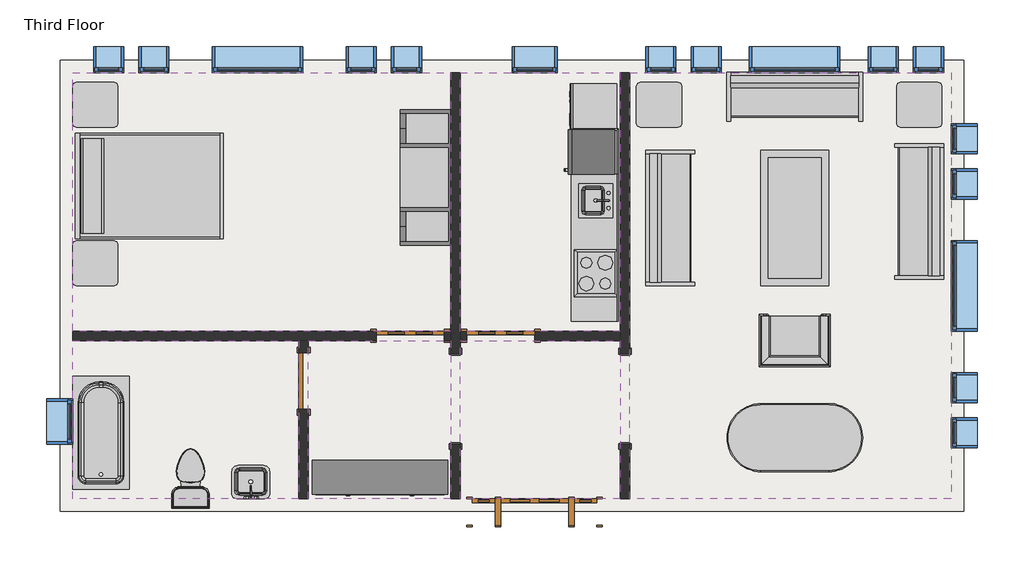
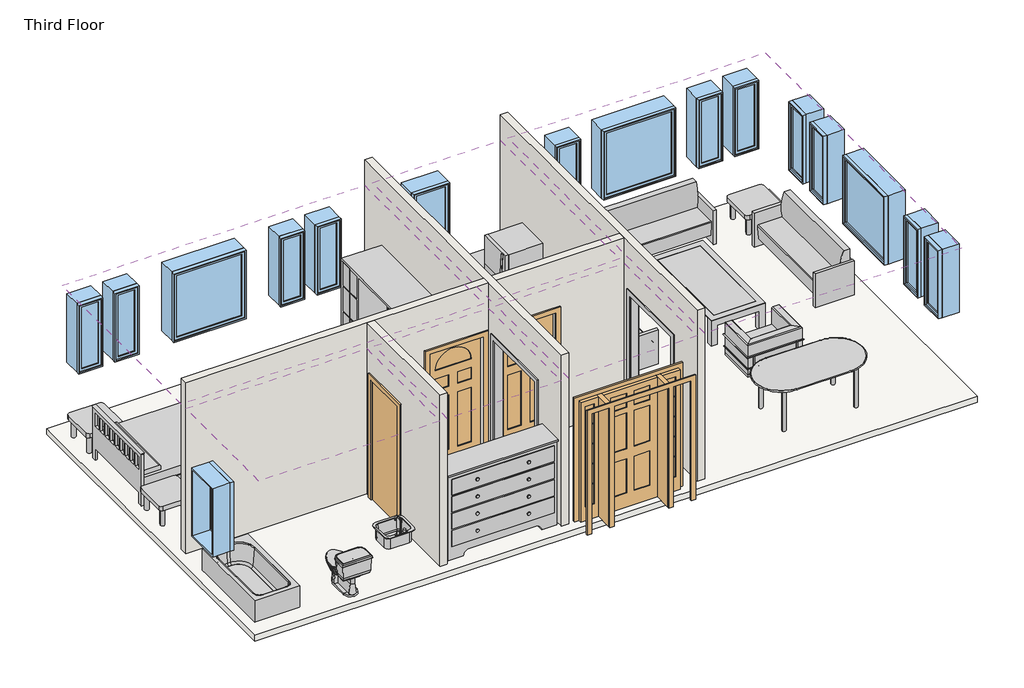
# One storey: 17 windows, 14 furniture elements, 6 coverings, 6 proxies, 5 walls, 4 doors, 4 flow terminals, 1 slab.
"""IFC4 building model written with IfcOpenShell, lengths in millimetres."""

from ifc_helpers import new_model, si_unit, frame, origin, place, context, project, spatial, polyline, outline, extrude, faceted_brep, transform, mapped, element, save
from components import proxy_dfcd9396, proxy_3c49123c, proxy_7a545507, proxy_f44482cc, proxy_ec3341c2, door_829da954, door_2e3b4da2, door_4d6c7550, door_dba5aa2e, flow_terminal_41332a36, flow_terminal_62a433f7, toilet_domestic_3d_toilet_domestic_3d_f7549cf7, toilet_domestic_3d_toilet_domestic_3d_183bbd19, tub_rectangular_3d_tub_rectangular_3d_15036965, furniture_096e7f55, chair_corbu_chair_corbu_2764bdef, furniture_6db689a5, furniture_7c473f12, furniture_cf0b6580, furniture_a4ffab56, furniture_cd93a443, furniture_2c34a4f9, furniture_3a588284, window_da97879f, window_d61ef850, window_60baf983, window_6eb97611

model = new_model("IFC4")

# Units and contexts
model_context = context("Model", 3, world=origin())
ifc_project = project(units=[si_unit("LENGTHUNIT", "METRE", prefix="MILLI")], contexts=[model_context])

# Site, building, storey
site = spatial("IfcSite", under=ifc_project)
building = spatial("IfcBuilding", under=site)
storey = spatial("IfcBuildingStorey", under=building, Name="Third Floor", Elevation=6096.0)

# Proxies
placement = place(None, origin())
proxy_shape = proxy_dfcd9396(model_context)
element("IfcBuildingElementProxy", 1, Name="Cook Top-4 Unit2 : 22\" x 20\"", ObjectType="Cook Top-4 Unit2 : 22\" x 20\"", at=placement, inside=storey, context=model_context, shape_type="MappedRepresentation", body=[
    mapped(proxy_shape, transform((-4167.1589563, 7568.5224391, 6096.0), x_axis=(0.0, 1.0000000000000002, 0.0), y_axis=(-1.0000000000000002, 0.0, 0.0), z_axis=(0.0, 0.0, 1.0))),
])
proxy_2_shape = proxy_3c49123c(model_context)
element("IfcBuildingElementProxy", 2, Name="Dishwasher : 24\" x 24\" x 34\"", ObjectType="Dishwasher : 24\" x 24\" x 34\"", at=placement, inside=storey, context=model_context, shape_type="MappedRepresentation", body=[
    mapped(proxy_2_shape, transform((-4459.0085211, 9434.1049706, 6096.0), x_axis=(0.0, 1.0000000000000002, 0.0), y_axis=(-1.0000000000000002, 0.0, 0.0), z_axis=(0.0, 0.0, 1.0))),
])
proxy_3_shape = proxy_7a545507(model_context)
element("IfcBuildingElementProxy", 3, Name="Kitchenette - Medium : 8'6\"", ObjectType="Kitchenette - Medium : 8'6\"", at=placement, inside=storey, context=model_context, shape_type="MappedRepresentation", body=[
    mapped(proxy_3_shape, transform((-3862.3589563, 8197.4847342, 6096.0), x_axis=(0.0, 1.0000000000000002, 0.0), y_axis=(-1.0000000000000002, 0.0, 0.0), z_axis=(0.0, 0.0, 1.0))),
])
proxy_4_shape = proxy_f44482cc(model_context)
element("IfcBuildingElementProxy", 4, Name="Opening-Cased : 48\" x 84\"", ObjectType="Opening-Cased : 48\" x 84\"", at=placement, inside=storey, context=model_context, shape_type="MappedRepresentation", body=[
    mapped(proxy_4_shape, transform((-3773.4589563, 5882.4203434, 6096.0), x_axis=(0.0, 1.0, 0.0), y_axis=(-1.0, 0.0, 0.0), z_axis=(0.0, 0.0, 1.0))),
])
element("IfcBuildingElementProxy", 5, Name="Opening-Cased : 48\" x 84\"", ObjectType="Opening-Cased : 48\" x 84\"", at=placement, inside=storey, context=model_context, shape_type="MappedRepresentation", body=[
    mapped(proxy_4_shape, transform((-6059.4589563, 5866.04303, 6096.0), x_axis=(0.0, -1.0, 0.0), y_axis=(1.0, 0.0, 0.0), z_axis=(0.0, 0.0, 1.0))),
])
proxy_5_shape = proxy_ec3341c2(model_context)
element("IfcBuildingElementProxy", 6, Name="Refrigerator : 24\" x 25\" LH", ObjectType="Refrigerator : 24\" x 25\" LH", at=placement, inside=storey, context=model_context, shape_type="MappedRepresentation", body=[
    mapped(proxy_5_shape, transform((-4212.8079278, 9200.4724391, 6096.0), x_axis=(0.0, 1.0000000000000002, 0.0), y_axis=(-1.0000000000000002, 0.0, 0.0), z_axis=(0.0, 0.0, 1.0))),
])

# Coverings
element("IfcCovering", 7, ObjectType="GWB on Mtl. Stud", at=placement, inside=storey, context=model_context, shape_type="SweptSolid", body=[
    extrude(outline(polyline([(-11217.2464563, 10270.0191867), (-6122.9589563, 10270.0191867), (-6122.9589563, 6787.0441867), (-11217.2464563, 6787.0441867), (-11217.2464563, 10270.0191867)])), frame((0.0, 0.0, 8686.8), z_axis=(0.0, 0.0, 1.0), x_axis=(1.0, 0.0, 0.0)), (0.0, 0.0, 1.0), 107.95),
])
element("IfcCovering", 8, ObjectType="GWB on Mtl. Stud", at=placement, inside=storey, context=model_context, shape_type="SweptSolid", body=[
    extrude(outline(polyline([(-5995.9589563, 6787.0441867), (-5995.9589563, 10270.0191867), (-3836.9589563, 10270.0191867), (-3836.9589563, 6787.0441867), (-5995.9589563, 6787.0441867)])), frame((0.0, 0.0, 8686.8), z_axis=(0.0, 0.0, 1.0), x_axis=(1.0, 0.0, 0.0)), (0.0, 0.0, 1.0), 107.95),
])
element("IfcCovering", 9, ObjectType="GWB on Mtl. Stud", at=placement, inside=storey, context=model_context, shape_type="SweptSolid", body=[
    extrude(outline(polyline([(-3709.9589563, 4526.4441867), (-3709.9589563, 10270.0191867), (622.3285437, 10270.0191867), (622.3285437, 4526.4441867), (-3709.9589563, 4526.4441867)])), frame((0.0, 0.0, 8686.8), z_axis=(0.0, 0.0, 1.0), x_axis=(1.0, 0.0, 0.0)), (0.0, 0.0, 1.0), 107.95),
])
element("IfcCovering", 10, ObjectType="GWB on Mtl. Stud", at=placement, inside=storey, context=model_context, shape_type="SweptSolid", body=[
    extrude(outline(polyline([(-3836.9589563, 4526.4441867), (-5995.9589563, 4526.4441867), (-5995.9589563, 6660.0441867), (-3836.9589563, 6660.0441867), (-3836.9589563, 4526.4441867)])), frame((0.0, 0.0, 8686.8), z_axis=(0.0, 0.0, 1.0), x_axis=(1.0, 0.0, 0.0)), (0.0, 0.0, 1.0), 107.95),
])
element("IfcCovering", 11, ObjectType="GWB on Mtl. Stud", at=placement, inside=storey, context=model_context, shape_type="SweptSolid", body=[
    extrude(outline(polyline([(-8169.2464563, 6660.0441867), (-8169.2464563, 4526.4441867), (-11217.2464563, 4526.4441867), (-11217.2464563, 6660.0441867), (-8169.2464563, 6660.0441867)])), frame((0.0, 0.0, 8686.8), z_axis=(0.0, 0.0, 1.0), x_axis=(1.0, 0.0, 0.0)), (0.0, 0.0, 1.0), 107.95),
])
element("IfcCovering", 12, ObjectType="GWB on Mtl. Stud", at=placement, inside=storey, context=model_context, shape_type="SweptSolid", body=[
    extrude(outline(polyline([(-6122.9589563, 4526.4441867), (-8042.2464563, 4526.4441867), (-8042.2464563, 6660.0441867), (-6122.9589563, 6660.0441867), (-6122.9589563, 4526.4441867)])), frame((0.0, 0.0, 8686.8), z_axis=(0.0, 0.0, 1.0), x_axis=(1.0, 0.0, 0.0)), (0.0, 0.0, 1.0), 107.95),
])

# Doors
door_shape = door_829da954(model_context)
element("IfcDoor", 13, ObjectType="Single-Decorative 2 : 36\" x 84\"", at=placement, inside=storey, context=model_context, shape_type="MappedRepresentation", body=[
    mapped(door_shape, transform((-5449.8589563, 6723.5441867, 6096.0), x_axis=(-1.0, 0.0, 0.0), y_axis=(0.0, -1.0, 0.0), z_axis=(0.0, 0.0, 1.0))),
])
door_2_shape = door_2e3b4da2(model_context)
element("IfcDoor", 14, ObjectType="Single-Decorative 2 : 36\" x 84\"", at=placement, inside=storey, context=model_context, shape_type="MappedRepresentation", body=[
    mapped(door_2_shape, transform((-6669.0589563, 6723.5441867, 6096.0), x_axis=(1.0, 0.0, 0.0), y_axis=(0.0, 1.0, 0.0), z_axis=(0.0, 0.0, 1.0))),
])
door_3_shape = door_4d6c7550(model_context)
element("IfcDoor", 15, ObjectType="Single-Flush : 30\" x 84\"", at=placement, inside=storey, context=model_context, shape_type="MappedRepresentation", body=[
    mapped(door_3_shape, transform((-8105.7464563, 6113.9441867, 6096.0), x_axis=(0.0, 1.0, 0.0), y_axis=(-1.0, 0.0, 0.0), z_axis=(0.0, 0.0, 1.0))),
])
door_4_shape = door_dba5aa2e(model_context)
element("IfcDoor", 16, ObjectType="Single-Raised Panel with Sidelights : 36\" x 84\"", at=placement, inside=storey, context=model_context, shape_type="MappedRepresentation", body=[
    mapped(door_4_shape, transform((-4992.6589563, 4350.2316867, 6096.0), x_axis=(-1.0, 0.0, 0.0), y_axis=(0.0, -1.0, 0.0), z_axis=(0.0, 0.0, 1.0))),
])

# Flow terminals
flow_terminal_shape = flow_terminal_41332a36(model_context)
element("IfcFlowTerminal", 17, ObjectType="Sink Kitchen-Island : 18\" x 18\"", at=placement, inside=storey, context=model_context, shape_type="MappedRepresentation", body=[
    mapped(flow_terminal_shape, transform((-4169.5043574, 8530.7331986, 6081.6), x_axis=(0.0, 1.0000000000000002, 0.0), y_axis=(-1.0000000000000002, 0.0, 0.0), z_axis=(0.0, 0.0, 1.0))),
])
flow_terminal_2_shape = flow_terminal_62a433f7(model_context)
element("IfcFlowTerminal", 18, ObjectType="Sink Vanity-Square : 20\" x 18\"", at=placement, inside=storey, context=model_context, shape_type="MappedRepresentation", body=[
    mapped(flow_terminal_2_shape, transform((-8801.2572158, 4706.5895878, 6096.0), x_axis=(-1.0, 0.0, 0.0), y_axis=(0.0, -1.0, 0.0), z_axis=(0.0, 0.0, 1.0))),
])
toilet_domestic_3d_toilet_domestic_3d_shape = toilet_domestic_3d_toilet_domestic_3d_f7549cf7(model_context)
toilet_domestic_3d_toilet_domestic_3d_2_shape = toilet_domestic_3d_toilet_domestic_3d_183bbd19(model_context)
element("IfcFlowTerminal", 19, ObjectType="Toilet-Domestic-3D : Toilet-Domestic-3D", at=placement, inside=storey, context=model_context, shape_type="MappedRepresentation", body=[
    mapped(toilet_domestic_3d_toilet_domestic_3d_shape, transform((-9629.7464563, 4894.7441867, 6096.0), x_axis=(-1.0, 0.0, 0.0), y_axis=(0.0, -1.0, 0.0), z_axis=(0.0, 0.0, 1.0))),
    mapped(toilet_domestic_3d_toilet_domestic_3d_2_shape, transform((-9629.7464563, 4894.7441867, 6096.0), x_axis=(-1.0, 0.0, 0.0), y_axis=(0.0, -1.0, 0.0), z_axis=(0.0, 0.0, 1.0))),
])
tub_rectangular_3d_tub_rectangular_3d_shape = tub_rectangular_3d_tub_rectangular_3d_15036965(model_context)
element("IfcFlowTerminal", 20, ObjectType="Tub-Rectangular-3D : Tub-Rectangular-3D", at=placement, inside=storey, context=model_context, shape_type="MappedRepresentation", body=[
    mapped(tub_rectangular_3d_tub_rectangular_3d_shape, transform((-11393.4589563, 5765.6346554, 6096.0), x_axis=(0.0, 1.0, 0.0), y_axis=(-1.0, 0.0, 0.0), z_axis=(0.0, 0.0, 1.0))),
])

# Furniture
furniture_shape = furniture_096e7f55(model_context)
element("IfcFurniture", 21, ObjectType="Bed-Shaker : Double 56\" x 78\"", at=placement, inside=storey, context=model_context, shape_type="MappedRepresentation", body=[
    mapped(furniture_shape, transform((-11172.0857802, 8763.4816867, 6096.0), x_axis=(0.0, 1.0, 0.0), y_axis=(-1.0, 0.0, 0.0), z_axis=(0.0, 0.0, 1.0))),
])
chair_corbu_chair_corbu_shape = chair_corbu_chair_corbu_2764bdef(model_context)
element("IfcFurniture", 22, ObjectType="Chair-Corbu : Chair-Corbu", at=placement, inside=storey, context=model_context, shape_type="MappedRepresentation", body=[
    mapped(chair_corbu_chair_corbu_shape, transform((-914.0851858, 7126.8212359, 6096.0), x_axis=(-1.0, 0.0, 0.0), y_axis=(0.0, -1.0, 0.0), z_axis=(0.0, 0.0, 1.0))),
])
furniture_2_shape = furniture_6db689a5(model_context)
element("IfcFurniture", 23, ObjectType="Counter Top w Sink Hole : 24\" Depth", at=placement, inside=storey, context=model_context, shape_type="MappedRepresentation", body=[
    mapped(furniture_2_shape, transform((-3862.3589563, 8121.2847342, 6081.6), x_axis=(0.0, 1.0000000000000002, 0.0), y_axis=(-1.0000000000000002, 0.0, 0.0), z_axis=(0.0, 0.0, 1.0))),
])
furniture_3_shape = furniture_7c473f12(model_context)
element("IfcFurniture", 24, ObjectType="Dresser : 72\" x 60\" x 18\"", at=placement, inside=storey, context=model_context, shape_type="MappedRepresentation", body=[
    mapped(furniture_3_shape, transform((-6806.2656965, 5181.7071408, 6096.0), x_axis=(1.0, 0.0, 0.0), y_axis=(0.0, 1.0, 0.0), z_axis=(0.0, 0.0, 1.0))),
])
furniture_4_shape = furniture_cf0b6580(model_context)
element("IfcFurniture", 25, ObjectType="Entertainment Center : 72\" x 72\" x 24\"", at=placement, inside=storey, context=model_context, shape_type="MappedRepresentation", body=[
    mapped(furniture_4_shape, transform((-6021.3589563, 8857.1441867, 6096.0), x_axis=(0.0, -1.0, 0.0), y_axis=(1.0, 0.0, 0.0), z_axis=(0.0, 0.0, 1.0))),
])
furniture_5_shape = furniture_a4ffab56(model_context)
element("IfcFurniture", 26, ObjectType="Sofa : 72\"", at=placement, inside=storey, context=model_context, shape_type="MappedRepresentation", body=[
    mapped(furniture_5_shape, transform((-3017.704858, 8242.2611949, 6096.0), x_axis=(0.0, 1.0, 0.0), y_axis=(-1.0, 0.0, 0.0), z_axis=(0.0, 0.0, 1.0))),
])
element("IfcFurniture", 27, ObjectType="Sofa : 72\"", at=placement, inside=storey, context=model_context, shape_type="MappedRepresentation", body=[
    mapped(furniture_5_shape, transform((-1557.8294481, 9801.5748071, 6096.0), x_axis=(1.0, 0.0, 0.0), y_axis=(0.0, 1.0, 0.0), z_axis=(0.0, 0.0, 1.0))),
])
element("IfcFurniture", 28, ObjectType="Sofa : 72\"", at=placement, inside=storey, context=model_context, shape_type="MappedRepresentation", body=[
    mapped(furniture_5_shape, transform((42.7869453, 8470.3146785, 6096.0), x_axis=(0.0, -1.0, 0.0), y_axis=(1.0, 0.0, 0.0), z_axis=(0.0, 0.0, 1.0))),
])
furniture_6_shape = furniture_cd93a443(model_context)
element("IfcFurniture", 29, ObjectType="Table-Coffee : 36\" x 72\" x 18\"", at=placement, inside=storey, context=model_context, shape_type="MappedRepresentation", body=[
    mapped(furniture_6_shape, transform((-1392.2478785, 8294.36592, 6096.0), x_axis=(0.0, 1.0, 0.0), y_axis=(-1.0, 0.0, 0.0), z_axis=(0.0, 0.0, 1.0))),
])
furniture_7_shape = furniture_2c34a4f9(model_context)
element("IfcFurniture", 30, ObjectType="Table-Dining Oval : 36\" x 72\"", at=placement, inside=storey, context=model_context, shape_type="MappedRepresentation", body=[
    mapped(furniture_7_shape, transform((-1085.6392842, 5710.0425473, 6096.0), x_axis=(1.0, 0.0, 0.0), y_axis=(0.0, 1.0, 0.0), z_axis=(0.0, 0.0, 1.0))),
])
furniture_8_shape = furniture_3a588284(model_context)
element("IfcFurniture", 31, ObjectType="Table-End : 24\" x 24\"", at=placement, inside=storey, context=model_context, shape_type="MappedRepresentation", body=[
    mapped(furniture_8_shape, transform((-119.5925866, 9684.2316867, 6096.0), x_axis=(1.0, 0.0, 0.0), y_axis=(0.0, 1.0, 0.0), z_axis=(0.0, 0.0, 1.0))),
])
element("IfcFurniture", 32, ObjectType="Table-End : 24\" x 24\"", at=placement, inside=storey, context=model_context, shape_type="MappedRepresentation", body=[
    mapped(furniture_8_shape, transform((-11220.9800866, 7550.6316867, 6096.0), x_axis=(1.0, 0.0, 0.0), y_axis=(0.0, 1.0, 0.0), z_axis=(0.0, 0.0, 1.0))),
])
element("IfcFurniture", 33, ObjectType="Table-End : 24\" x 24\"", at=placement, inside=storey, context=model_context, shape_type="MappedRepresentation", body=[
    mapped(furniture_8_shape, transform((-11220.9800866, 9684.2316867, 6096.0), x_axis=(1.0, 0.0, 0.0), y_axis=(0.0, 1.0, 0.0), z_axis=(0.0, 0.0, 1.0))),
])
element("IfcFurniture", 34, ObjectType="Table-End : 24\" x 24\"", at=placement, inside=storey, context=model_context, shape_type="MappedRepresentation", body=[
    mapped(furniture_8_shape, transform((-3624.7925866, 9684.2316867, 6096.0), x_axis=(1.0, 0.0, 0.0), y_axis=(0.0, 1.0, 0.0), z_axis=(0.0, 0.0, 1.0))),
])

# Slab
element("IfcSlab", 35, ObjectType="LW Concrete on Metal Deck", at=placement, inside=storey, context=model_context, shape_type="SweptSolid", body=[
    extrude(outline(polyline([(787.4285437, 10435.1191867), (787.4285437, 4361.3441867), (-11382.3464563, 4361.3441867), (-11382.3464563, 10435.1191867), (787.4285437, 10435.1191867)])), frame((0.0, 0.0, 5991.225), z_axis=(0.0, 0.0, 1.0), x_axis=(1.0, 0.0, 0.0)), (0.0, 0.0, 1.0), 104.775),
])

# Walls
element("IfcWall", 36, ObjectType="Interior - 5\" Partition (2-hr)", at=placement, inside=storey, context=model_context, shape_type="Brep", body=[
    faceted_brep([(-3709.9589563, 10270.0191867, 6096.0), (-3709.9589563, 6483.8316867, 6096.0), (-3836.9589563, 6483.8316867, 6096.0), (-3836.9589563, 6660.0441867, 6096.0), (-3836.9589563, 6787.0441867, 6096.0), (-3836.9589563, 10270.0191867, 6096.0), (-3709.9589563, 5264.6316867, 6096.0), (-3709.9589563, 4526.4441867, 6096.0), (-3836.9589563, 4526.4441867, 6096.0), (-3836.9589563, 5264.6316867, 6096.0), (-3836.9589563, 10270.0191867, 9144.0), (-3836.9589563, 6787.0441867, 9144.0), (-3836.9589563, 6660.0441867, 9144.0), (-3836.9589563, 4526.4441867, 9144.0), (-3709.9589563, 4526.4441867, 9144.0), (-3709.9589563, 10270.0191867, 9144.0), (-3836.9589563, 6483.8316867, 8229.6), (-3836.9589563, 5264.6316867, 8229.6), (-3709.9589563, 6483.8316867, 8229.6), (-3709.9589563, 5264.6316867, 8229.6)], [[[0, 1, 2, 3, 4, 5]], [[6, 7, 8, 9]], [[10, 11, 12, 13, 14, 15]], [[5, 4, 3, 2, 16, 17, 9, 8, 13, 12, 11, 10]], [[18, 1, 0, 15, 14, 7, 6, 19]], [[5, 10, 15, 0]], [[13, 8, 7, 14]], [[9, 17, 19, 6]], [[16, 2, 1, 18]], [[17, 16, 18, 19]]]),
])
element("IfcWall", 37, ObjectType="Interior - 5\" Partition (2-hr)", at=placement, inside=storey, context=model_context, shape_type="Brep", body=[
    faceted_brep([(-6122.9589563, 4526.4441867, 6096.0), (-6122.9589563, 5264.6316867, 6096.0), (-5995.9589563, 5264.6316867, 6096.0), (-5995.9589563, 4526.4441867, 6096.0), (-6122.9589563, 6483.8316867, 6096.0), (-6122.9589563, 6660.0441867, 6096.0), (-6122.9589563, 6787.0441867, 6096.0), (-6122.9589563, 10270.0191867, 6096.0), (-5995.9589563, 10270.0191867, 6096.0), (-5995.9589563, 6787.0441867, 6096.0), (-5995.9589563, 6660.0441867, 6096.0), (-5995.9589563, 6483.8316867, 6096.0), (-6122.9589563, 10270.0191867, 9144.0), (-6122.9589563, 6787.0441867, 9144.0), (-6122.9589563, 6660.0441867, 9144.0), (-6122.9589563, 4526.4441867, 9144.0), (-5995.9589563, 4526.4441867, 9144.0), (-5995.9589563, 6660.0441867, 9144.0), (-5995.9589563, 6787.0441867, 9144.0), (-5995.9589563, 10270.0191867, 9144.0), (-6122.9589563, 5264.6316867, 8229.6), (-6122.9589563, 6483.8316867, 8229.6), (-5995.9589563, 5264.6316867, 8229.6), (-5995.9589563, 6483.8316867, 8229.6)], [[[0, 1, 2, 3]], [[4, 5, 6, 7, 8, 9, 10, 11]], [[12, 13, 14, 15, 16, 17, 18, 19]], [[20, 1, 0, 15, 14, 13, 12, 7, 6, 5, 4, 21]], [[3, 2, 22, 23, 11, 10, 9, 8, 19, 18, 17, 16]], [[7, 12, 19, 8]], [[15, 0, 3, 16]], [[11, 23, 21, 4]], [[22, 2, 1, 20]], [[23, 22, 20, 21]]]),
])
element("IfcWall", 38, ObjectType="Interior - 5\" Partition (2-hr)", at=placement, inside=storey, context=model_context, shape_type="Brep", body=[
    faceted_brep([(-6122.9589563, 6660.0441867, 6096.0), (-6211.8589563, 6660.0441867, 6096.0), (-6211.8589563, 6787.0441867, 6096.0), (-6122.9589563, 6787.0441867, 6096.0), (-7126.2589563, 6660.0441867, 6096.0), (-8042.2464563, 6660.0441867, 6096.0), (-8169.2464563, 6660.0441867, 6096.0), (-11217.2464563, 6660.0441867, 6096.0), (-11217.2464563, 6787.0441867, 6096.0), (-7126.2589563, 6787.0441867, 6096.0), (-11217.2464563, 6660.0441867, 9144.0), (-8169.2464563, 6660.0441867, 9144.0), (-8042.2464563, 6660.0441867, 9144.0), (-6122.9589563, 6660.0441867, 9144.0), (-6122.9589563, 6787.0441867, 9144.0), (-11217.2464563, 6787.0441867, 9144.0), (-6211.8589563, 6660.0441867, 8229.6), (-7126.2589563, 6660.0441867, 8229.6), (-6211.8589563, 6787.0441867, 8229.6), (-7126.2589563, 6787.0441867, 8229.6)], [[[0, 1, 2, 3]], [[4, 5, 6, 7, 8, 9]], [[10, 11, 12, 13, 14, 15]], [[16, 1, 0, 13, 12, 11, 10, 7, 6, 5, 4, 17]], [[3, 2, 18, 19, 9, 8, 15, 14]], [[13, 0, 3, 14]], [[7, 10, 15, 8]], [[18, 2, 1, 16]], [[19, 18, 16, 17]], [[9, 19, 17, 4]]]),
])
element("IfcWall", 39, ObjectType="Interior - 5\" Partition (2-hr)", at=placement, inside=storey, context=model_context, shape_type="SweptSolid", body=[
    extrude(outline(polyline([(6660.0441867, 6096.0), (6494.9441867, 6096.0), (6494.9441867, 8229.6), (5732.9441867, 8229.6), (5732.9441867, 6096.0), (4526.4441867, 6096.0), (4526.4441867, 9144.0), (6660.0441867, 9144.0), (6660.0441867, 6096.0)])), frame((-8169.2464563, 0.0, 0.0), z_axis=(1.0, 0.0, 0.0), x_axis=(0.0, 1.0, 0.0)), (0.0, 0.0, 1.0), 127.0),
])
element("IfcWall", 40, ObjectType="Interior - 5\" Partition (2-hr)", at=placement, inside=storey, context=model_context, shape_type="SweptSolid", body=[
    extrude(outline(polyline([(6096.0, -5995.9589563), (6096.0, -5907.0589563), (8229.6, -5907.0589563), (8229.6, -4992.6589563), (6096.0, -4992.6589563), (6096.0, -3836.9589563), (9144.0, -3836.9589563), (9144.0, -5995.9589563), (6096.0, -5995.9589563)])), frame((0.0, 6660.0441867, 0.0), z_axis=(0.0, 1.0, 0.0), x_axis=(0.0, 0.0, 1.0)), (0.0, 0.0, 1.0), 127.0),
])

# Windows
window_shape = window_da97879f(model_context)
element("IfcWindow", 41, ObjectType="Fixed : 16\" x 48\"", at=placement, inside=storey, context=model_context, shape_type="MappedRepresentation", body=[
    mapped(window_shape, transform((-10771.1589563, 10446.2316867, 6096.0), x_axis=(-1.0, 0.0, 0.0), y_axis=(0.0, -1.0, 0.0), z_axis=(0.0, 0.0, 1.0))),
])
element("IfcWindow", 42, ObjectType="Fixed : 16\" x 48\"", at=placement, inside=storey, context=model_context, shape_type="MappedRepresentation", body=[
    mapped(window_shape, transform((-10161.5589563, 10446.2316867, 6096.0), x_axis=(-1.0, 0.0, 0.0), y_axis=(0.0, -1.0, 0.0), z_axis=(0.0, 0.0, 1.0))),
])
element("IfcWindow", 43, ObjectType="Fixed : 16\" x 48\"", at=placement, inside=storey, context=model_context, shape_type="MappedRepresentation", body=[
    mapped(window_shape, transform((-3328.9589563, 10446.2316867, 6096.0), x_axis=(-1.0, 0.0, 0.0), y_axis=(0.0, -1.0, 0.0), z_axis=(0.0, 0.0, 1.0))),
])
element("IfcWindow", 44, ObjectType="Fixed : 16\" x 48\"", at=placement, inside=storey, context=model_context, shape_type="MappedRepresentation", body=[
    mapped(window_shape, transform((-2719.3589563, 10446.2316867, 6096.0), x_axis=(-1.0, 0.0, 0.0), y_axis=(0.0, -1.0, 0.0), z_axis=(0.0, 0.0, 1.0))),
])
element("IfcWindow", 45, ObjectType="Fixed : 16\" x 48\"", at=placement, inside=storey, context=model_context, shape_type="MappedRepresentation", body=[
    mapped(window_shape, transform((798.5410437, 9417.5316867, 6096.0), x_axis=(0.0, 1.0, 0.0), y_axis=(-1.0, 0.0, 0.0), z_axis=(0.0, 0.0, 1.0))),
])
element("IfcWindow", 46, ObjectType="Fixed : 16\" x 48\"", at=placement, inside=storey, context=model_context, shape_type="MappedRepresentation", body=[
    mapped(window_shape, transform((798.5410437, 8807.9316867, 6096.0), x_axis=(0.0, 1.0, 0.0), y_axis=(-1.0, 0.0, 0.0), z_axis=(0.0, 0.0, 1.0))),
])
window_2_shape = window_d61ef850(model_context)
element("IfcWindow", 47, ObjectType="Fixed : 16\" x 48\"", at=placement, inside=storey, context=model_context, shape_type="MappedRepresentation", body=[
    mapped(window_2_shape, transform((-6681.7589563, 10446.2316867, 6096.0), x_axis=(1.0, 0.0, 0.0), y_axis=(0.0, 1.0, 0.0), z_axis=(0.0, 0.0, 1.0))),
])
element("IfcWindow", 48, ObjectType="Fixed : 16\" x 48\"", at=placement, inside=storey, context=model_context, shape_type="MappedRepresentation", body=[
    mapped(window_2_shape, transform((-7291.3589563, 10446.2316867, 6096.0), x_axis=(1.0, 0.0, 0.0), y_axis=(0.0, 1.0, 0.0), z_axis=(0.0, 0.0, 1.0))),
])
element("IfcWindow", 49, ObjectType="Fixed : 16\" x 48\"", at=placement, inside=storey, context=model_context, shape_type="MappedRepresentation", body=[
    mapped(window_2_shape, transform((354.0410437, 10446.2316867, 6096.0), x_axis=(1.0, 0.0, 0.0), y_axis=(0.0, 1.0, 0.0), z_axis=(0.0, 0.0, 1.0))),
])
element("IfcWindow", 50, ObjectType="Fixed : 16\" x 48\"", at=placement, inside=storey, context=model_context, shape_type="MappedRepresentation", body=[
    mapped(window_2_shape, transform((-255.5589563, 10446.2316867, 6096.0), x_axis=(1.0, 0.0, 0.0), y_axis=(0.0, 1.0, 0.0), z_axis=(0.0, 0.0, 1.0))),
])
element("IfcWindow", 51, ObjectType="Fixed : 16\" x 48\"", at=placement, inside=storey, context=model_context, shape_type="MappedRepresentation", body=[
    mapped(window_2_shape, transform((798.5410437, 5378.9316867, 6096.0), x_axis=(0.0, -1.0, 0.0), y_axis=(1.0, 0.0, 0.0), z_axis=(0.0, 0.0, 1.0))),
])
element("IfcWindow", 52, ObjectType="Fixed : 16\" x 48\"", at=placement, inside=storey, context=model_context, shape_type="MappedRepresentation", body=[
    mapped(window_2_shape, transform((798.5410437, 5988.5316867, 6096.0), x_axis=(0.0, -1.0, 0.0), y_axis=(1.0, 0.0, 0.0), z_axis=(0.0, 0.0, 1.0))),
])
window_3_shape = window_60baf983(model_context)
element("IfcWindow", 53, ObjectType="Fixed : 24\" x 48\"", at=placement, inside=storey, context=model_context, shape_type="MappedRepresentation", body=[
    mapped(window_3_shape, transform((-5030.7589563, 10446.2316867, 6096.0), x_axis=(-1.0, 0.0, 0.0), y_axis=(0.0, -1.0, 0.0), z_axis=(0.0, 0.0, 1.0))),
])
element("IfcWindow", 54, ObjectType="Fixed : 24\" x 48\"", at=placement, inside=storey, context=model_context, shape_type="MappedRepresentation", body=[
    mapped(window_3_shape, transform((-11393.4589563, 5531.3316867, 6096.0), x_axis=(0.0, -1.0, 0.0), y_axis=(1.0, 0.0, 0.0), z_axis=(0.0, 0.0, 1.0))),
])
window_4_shape = window_6eb97611(model_context)
element("IfcWindow", 55, ObjectType="Fixed : 48\" x 48\"", at=placement, inside=storey, context=model_context, shape_type="MappedRepresentation", body=[
    mapped(window_4_shape, transform((-8764.5589563, 10446.2316867, 6096.0), x_axis=(-1.0, 0.0, 0.0), y_axis=(0.0, -1.0, 0.0), z_axis=(0.0, 0.0, 1.0))),
])
element("IfcWindow", 56, ObjectType="Fixed : 48\" x 48\"", at=placement, inside=storey, context=model_context, shape_type="MappedRepresentation", body=[
    mapped(window_4_shape, transform((-1525.5589563, 10446.2316867, 6096.0), x_axis=(-1.0, 0.0, 0.0), y_axis=(0.0, -1.0, 0.0), z_axis=(0.0, 0.0, 1.0))),
])
element("IfcWindow", 57, ObjectType="Fixed : 48\" x 48\"", at=placement, inside=storey, context=model_context, shape_type="MappedRepresentation", body=[
    mapped(window_4_shape, transform((798.5410437, 7436.3316867, 6096.0), x_axis=(0.0, 1.0, 0.0), y_axis=(-1.0, 0.0, 0.0), z_axis=(0.0, 0.0, 1.0))),
])

save(model, "model.ifc")
